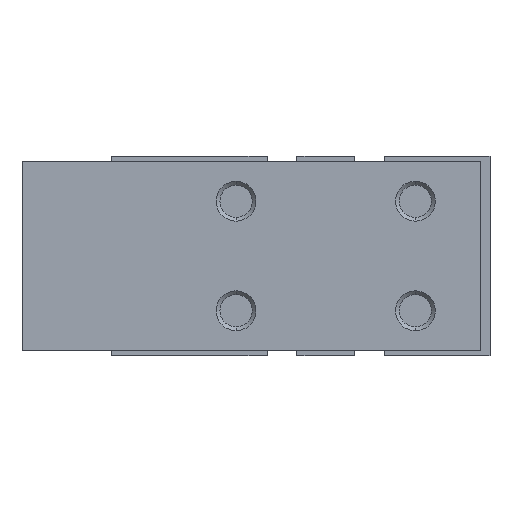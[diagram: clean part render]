
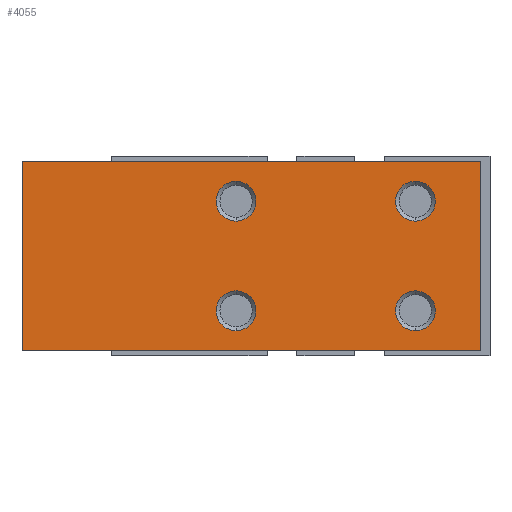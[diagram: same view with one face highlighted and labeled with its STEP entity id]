
A CAD part, left-side view. The second image highlights one B-rep face of the part: STEP entity #4055.
In plain terms, the highlighted planar face has unit normal (-1, 0, 0).
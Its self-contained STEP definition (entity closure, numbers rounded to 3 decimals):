
#6 = VERTEX_POINT ( 'NONE', #815 ) ;
#110 = CARTESIAN_POINT ( 'NONE',  ( -11.5, -15.5, -9.5 ) ) ;
#125 = DIRECTION ( 'NONE',  ( -1., 0., 0. ) ) ;
#284 = FACE_BOUND ( 'NONE', #4887, .T. ) ;
#316 = CARTESIAN_POINT ( 'NONE',  ( -11.5, 30.5, 9.5 ) ) ;
#329 = VECTOR ( 'NONE', #3655, 1000. ) ;
#349 = EDGE_CURVE ( 'NONE', #6, #2070, #1102, .T. ) ;
#387 = DIRECTION ( 'NONE',  ( 0., 0., 1. ) ) ;
#423 = CARTESIAN_POINT ( 'NONE',  ( -11.5, 9., 5.5 ) ) ;
#462 = VERTEX_POINT ( 'NONE', #967 ) ;
#565 = EDGE_CURVE ( 'NONE', #3868, #2372, #4969, .T. ) ;
#608 = CARTESIAN_POINT ( 'NONE',  ( -11.5, -9., -5.5 ) ) ;
#626 = ORIENTED_EDGE ( 'NONE', *, *, #4391, .F. ) ;
#629 = VERTEX_POINT ( 'NONE', #110 ) ;
#642 = DIRECTION ( 'NONE',  ( 0., -1., 0. ) ) ;
#687 = ORIENTED_EDGE ( 'NONE', *, *, #3381, .T. ) ;
#706 = CARTESIAN_POINT ( 'NONE',  ( -11.5, 30.5, -9.5 ) ) ;
#726 = DIRECTION ( 'NONE',  ( -1., 0., 0. ) ) ;
#770 = VERTEX_POINT ( 'NONE', #3026 ) ;
#771 = VERTEX_POINT ( 'NONE', #706 ) ;
#815 = CARTESIAN_POINT ( 'NONE',  ( -11.5, 9., 7.5 ) ) ;
#841 = CARTESIAN_POINT ( 'NONE',  ( -11.5, 30.5, 9.5 ) ) ;
#846 = CARTESIAN_POINT ( 'NONE',  ( -11.5, -9., 5.5 ) ) ;
#891 = CIRCLE ( 'NONE', #2623, 2. ) ;
#941 = EDGE_CURVE ( 'NONE', #2372, #629, #4976, .T. ) ;
#950 = EDGE_CURVE ( 'NONE', #2070, #6, #4378, .T. ) ;
#951 = EDGE_LOOP ( 'NONE', ( #687, #5202, #3150, #2312 ) ) ;
#967 = CARTESIAN_POINT ( 'NONE',  ( -11.5, -9., -3.5 ) ) ;
#1032 = EDGE_CURVE ( 'NONE', #5617, #462, #5156, .T. ) ;
#1085 = CARTESIAN_POINT ( 'NONE',  ( -11.5, 30.5, 9.5 ) ) ;
#1102 = CIRCLE ( 'NONE', #1393, 2. ) ;
#1137 = AXIS2_PLACEMENT_3D ( 'NONE', #4048, #2627, #2691 ) ;
#1197 = VECTOR ( 'NONE', #3162, 1000. ) ;
#1248 = DIRECTION ( 'NONE',  ( -1., 0., 0. ) ) ;
#1259 = PLANE ( 'NONE',  #4972 ) ;
#1311 = VECTOR ( 'NONE', #642, 1000. ) ;
#1342 = CARTESIAN_POINT ( 'NONE',  ( -11.5, 30.5, 9.5 ) ) ;
#1393 = AXIS2_PLACEMENT_3D ( 'NONE', #3840, #5671, #1546 ) ;
#1421 = CARTESIAN_POINT ( 'NONE',  ( -11.5, -15.5, 9.5 ) ) ;
#1545 = CARTESIAN_POINT ( 'NONE',  ( -11.5, 9., -3.5 ) ) ;
#1546 = DIRECTION ( 'NONE',  ( 0., 0., 1. ) ) ;
#1671 = AXIS2_PLACEMENT_3D ( 'NONE', #846, #726, #387 ) ;
#1684 = DIRECTION ( 'NONE',  ( 1., 0., 0. ) ) ;
#1732 = CARTESIAN_POINT ( 'NONE',  ( -11.5, 9., -5.5 ) ) ;
#1796 = ORIENTED_EDGE ( 'NONE', *, *, #349, .F. ) ;
#1806 = CIRCLE ( 'NONE', #1137, 2. ) ;
#2070 = VERTEX_POINT ( 'NONE', #5623 ) ;
#2109 = FACE_OUTER_BOUND ( 'NONE', #951, .T. ) ;
#2176 = EDGE_LOOP ( 'NONE', ( #4485, #2234 ) ) ;
#2234 = ORIENTED_EDGE ( 'NONE', *, *, #5523, .F. ) ;
#2308 = DIRECTION ( 'NONE',  ( 0., 0., 1. ) ) ;
#2312 = ORIENTED_EDGE ( 'NONE', *, *, #2624, .T. ) ;
#2327 = CARTESIAN_POINT ( 'NONE',  ( -11.5, -9., -7.5 ) ) ;
#2372 = VERTEX_POINT ( 'NONE', #1421 ) ;
#2428 = CARTESIAN_POINT ( 'NONE',  ( -11.5, -9., 5.5 ) ) ;
#2571 = ORIENTED_EDGE ( 'NONE', *, *, #4226, .F. ) ;
#2623 = AXIS2_PLACEMENT_3D ( 'NONE', #1732, #1248, #3993 ) ;
#2624 = EDGE_CURVE ( 'NONE', #3868, #771, #3638, .T. ) ;
#2627 = DIRECTION ( 'NONE',  ( -1., 0., 0. ) ) ;
#2638 = VERTEX_POINT ( 'NONE', #3152 ) ;
#2691 = DIRECTION ( 'NONE',  ( 0., 0., 1. ) ) ;
#2811 = DIRECTION ( 'NONE',  ( -1., 0., 0. ) ) ;
#2834 = EDGE_CURVE ( 'NONE', #3275, #770, #4201, .T. ) ;
#2852 = DIRECTION ( 'NONE',  ( -1., 0., 0. ) ) ;
#3026 = CARTESIAN_POINT ( 'NONE',  ( -11.5, -9., 3.5 ) ) ;
#3065 = FACE_BOUND ( 'NONE', #2176, .T. ) ;
#3150 = ORIENTED_EDGE ( 'NONE', *, *, #565, .F. ) ;
#3152 = CARTESIAN_POINT ( 'NONE',  ( -11.5, 9., -7.5 ) ) ;
#3162 = DIRECTION ( 'NONE',  ( 0., -1., 0. ) ) ;
#3168 = DIRECTION ( 'NONE',  ( 0., 0., 1. ) ) ;
#3275 = VERTEX_POINT ( 'NONE', #5558 ) ;
#3374 = ORIENTED_EDGE ( 'NONE', *, *, #5001, .F. ) ;
#3381 = EDGE_CURVE ( 'NONE', #771, #629, #5647, .T. ) ;
#3570 = DIRECTION ( 'NONE',  ( 0., 0., -1. ) ) ;
#3638 = LINE ( 'NONE', #1342, #3862 ) ;
#3655 = DIRECTION ( 'NONE',  ( 0., 0., -1. ) ) ;
#3840 = CARTESIAN_POINT ( 'NONE',  ( -11.5, 9., 5.5 ) ) ;
#3862 = VECTOR ( 'NONE', #3570, 1000. ) ;
#3864 = DIRECTION ( 'NONE',  ( 0., 0., 1. ) ) ;
#3868 = VERTEX_POINT ( 'NONE', #1085 ) ;
#3879 = DIRECTION ( 'NONE',  ( 0., 0., 1. ) ) ;
#3972 = FACE_BOUND ( 'NONE', #5499, .T. ) ;
#3993 = DIRECTION ( 'NONE',  ( 0., 0., 1. ) ) ;
#4048 = CARTESIAN_POINT ( 'NONE',  ( -11.5, 9., -5.5 ) ) ;
#4055 = ADVANCED_FACE ( 'NONE', ( #2109, #284, #3065, #3972, #5810 ), #1259, .F. ) ;
#4120 = AXIS2_PLACEMENT_3D ( 'NONE', #4575, #5719, #3879 ) ;
#4201 = CIRCLE ( 'NONE', #4300, 2. ) ;
#4226 = EDGE_CURVE ( 'NONE', #462, #5617, #4792, .T. ) ;
#4278 = CIRCLE ( 'NONE', #1671, 2. ) ;
#4293 = AXIS2_PLACEMENT_3D ( 'NONE', #608, #125, #3864 ) ;
#4300 = AXIS2_PLACEMENT_3D ( 'NONE', #2428, #2852, #2308 ) ;
#4378 = CIRCLE ( 'NONE', #5057, 2. ) ;
#4391 = EDGE_CURVE ( 'NONE', #5685, #2638, #1806, .T. ) ;
#4452 = DIRECTION ( 'NONE',  ( 0., 1., 0. ) ) ;
#4485 = ORIENTED_EDGE ( 'NONE', *, *, #2834, .F. ) ;
#4553 = CARTESIAN_POINT ( 'NONE',  ( -11.5, -15.5, 9.5 ) ) ;
#4575 = CARTESIAN_POINT ( 'NONE',  ( -11.5, -9., -5.5 ) ) ;
#4792 = CIRCLE ( 'NONE', #4120, 2. ) ;
#4822 = CARTESIAN_POINT ( 'NONE',  ( -11.5, 30.5, -9.5 ) ) ;
#4887 = EDGE_LOOP ( 'NONE', ( #626, #3374 ) ) ;
#4969 = LINE ( 'NONE', #841, #1197 ) ;
#4972 = AXIS2_PLACEMENT_3D ( 'NONE', #316, #1684, #4452 ) ;
#4976 = LINE ( 'NONE', #4553, #329 ) ;
#5001 = EDGE_CURVE ( 'NONE', #2638, #5685, #891, .T. ) ;
#5057 = AXIS2_PLACEMENT_3D ( 'NONE', #423, #2811, #3168 ) ;
#5156 = CIRCLE ( 'NONE', #4293, 2. ) ;
#5202 = ORIENTED_EDGE ( 'NONE', *, *, #941, .F. ) ;
#5499 = EDGE_LOOP ( 'NONE', ( #2571, #5703 ) ) ;
#5523 = EDGE_CURVE ( 'NONE', #770, #3275, #4278, .T. ) ;
#5558 = CARTESIAN_POINT ( 'NONE',  ( -11.5, -9., 7.5 ) ) ;
#5617 = VERTEX_POINT ( 'NONE', #2327 ) ;
#5623 = CARTESIAN_POINT ( 'NONE',  ( -11.5, 9., 3.5 ) ) ;
#5647 = LINE ( 'NONE', #4822, #1311 ) ;
#5671 = DIRECTION ( 'NONE',  ( -1., 0., 0. ) ) ;
#5685 = VERTEX_POINT ( 'NONE', #1545 ) ;
#5703 = ORIENTED_EDGE ( 'NONE', *, *, #1032, .F. ) ;
#5719 = DIRECTION ( 'NONE',  ( -1., 0., 0. ) ) ;
#5810 = FACE_BOUND ( 'NONE', #5872, .T. ) ;
#5872 = EDGE_LOOP ( 'NONE', ( #1796, #5916 ) ) ;
#5916 = ORIENTED_EDGE ( 'NONE', *, *, #950, .F. ) ;
